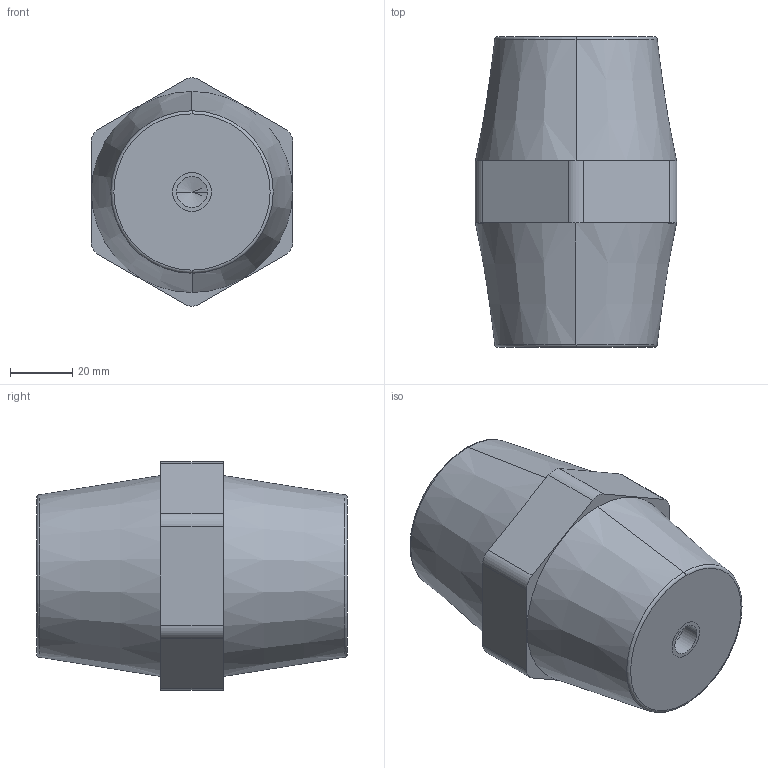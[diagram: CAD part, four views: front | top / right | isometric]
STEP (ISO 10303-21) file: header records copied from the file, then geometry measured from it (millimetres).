
FILE_DESCRIPTION (( 'STEP AP214' ), '1' );
FILE_NAME ('Isolatore 9962 65X100-M10.STEP', '2025-04-23T12:26:18', ( '' ), ( '' ), 'SwSTEP 2.0', 'SolidWorks 2020', '' );
FILE_SCHEMA (( 'AUTOMOTIVE_DESIGN' ));
Length unit declared in the file: millimetre
Products named in the file (1): Isolatore 9962 65X100-M10
Bounding box: 65 x 100 x 73.51 mm (x, y, z)
Volume: 284436 mm3; surface area: 29902.6 mm2
Topology: 3 solids, 3 shells, 87 faces, 191 edges, 116 vertices
Faces by surface type: cylinder 43, plane 24, cone 16, torus 4
Entity records: 2882 total; most frequent: DIRECTION 457, CARTESIAN_POINT 383, ORIENTED_EDGE 358, AXIS2_PLACEMENT_3D 190, EDGE_CURVE 179, VERTEX_POINT 116, EDGE_LOOP 105, CIRCLE 102
